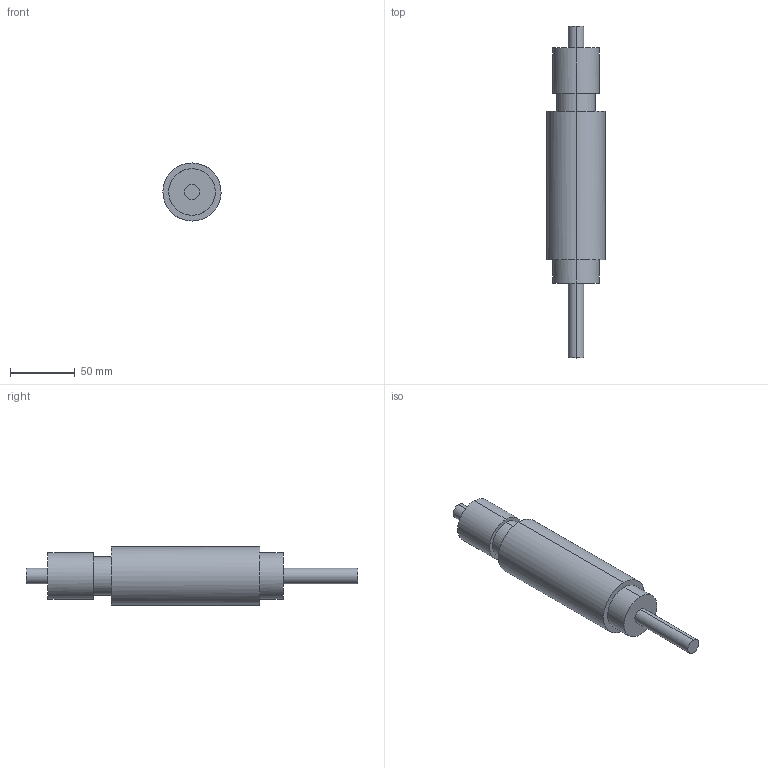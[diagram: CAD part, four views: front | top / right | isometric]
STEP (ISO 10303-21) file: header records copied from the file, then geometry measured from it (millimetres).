
FILE_DESCRIPTION(('CATIA V5 STEP Exchange'),'2;1');
FILE_NAME('C:\Users\Raffaele\Desktop\3D X SITO CF\D995\GSB_OILLESS_M3050450050\STEP-2.03\D995-1.stp','2019-07-05T08:06:36+00:00',('none'),('none'),'CATIA Version 5 Release 20 GA (IN-10)','CATIA V5 STEP AP203','none');
FILE_SCHEMA(('CONFIG_CONTROL_DESIGN'));
Length unit declared in the file: millimetre
Products named in the file (1): D995-1
Bounding box: 45 x 257 x 45 mm (x, y, z)
Volume: 255225.3 mm3; surface area: 30201.7 mm2
Topology: 1 solids, 1 shells, 19 faces, 60 edges, 48 vertices
Faces by surface type: cylinder 12, plane 7
Entity records: 872 total; most frequent: CARTESIAN_POINT 296, ORIENTED_EDGE 120, DIRECTION 86, EDGE_CURVE 60, AXIS2_PLACEMENT_3D 56, VERTEX_POINT 48, CIRCLE 36, EDGE_LOOP 24
